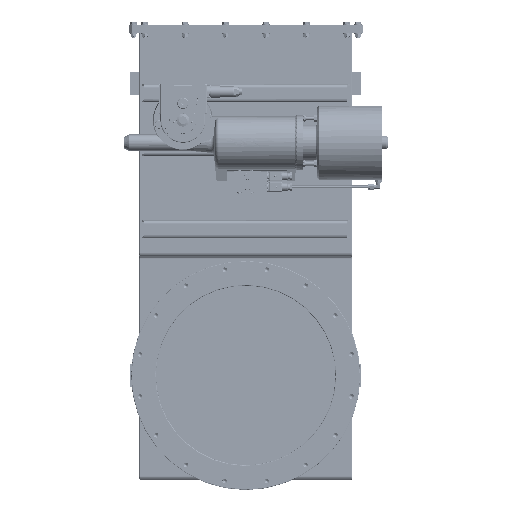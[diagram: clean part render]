
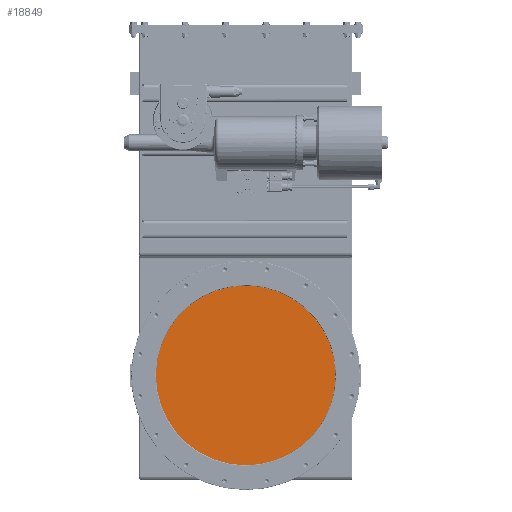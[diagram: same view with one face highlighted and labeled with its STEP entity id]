
A CAD part, top view. The second image highlights one B-rep face of the part: STEP entity #18849.
In plain terms, the highlighted planar face has unit normal (0, 0, 1).
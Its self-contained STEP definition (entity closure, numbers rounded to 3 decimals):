
#15929=PLANE('',#50358);
#17284=FACE_OUTER_BOUND('',#24747,.T.);
#18849=ADVANCED_FACE('',(#17284),#15929,.T.);
#24747=EDGE_LOOP('',(#28692));
#28692=ORIENTED_EDGE('',*,*,#43013,.T.);
#39158=VERTEX_POINT('',#67410);
#43013=EDGE_CURVE('',#39158,#39158,#48247,.T.);
#48247=CIRCLE('',#50355,200.09);
#50355=AXIS2_PLACEMENT_3D('',#67409,#55210,#55211);
#50358=AXIS2_PLACEMENT_3D('',#67414,#55216,#55217);
#55210=DIRECTION('',(0.,0.,1.));
#55211=DIRECTION('',(0.981,0.195,0.));
#55216=DIRECTION('',(0.,0.,1.));
#55217=DIRECTION('',(1.,0.,0.));
#67409=CARTESIAN_POINT('',(0.,-772.,23.8));
#67410=CARTESIAN_POINT('',(196.245,-732.964,23.8));
#67414=CARTESIAN_POINT('',(0.,-772.,23.8));
